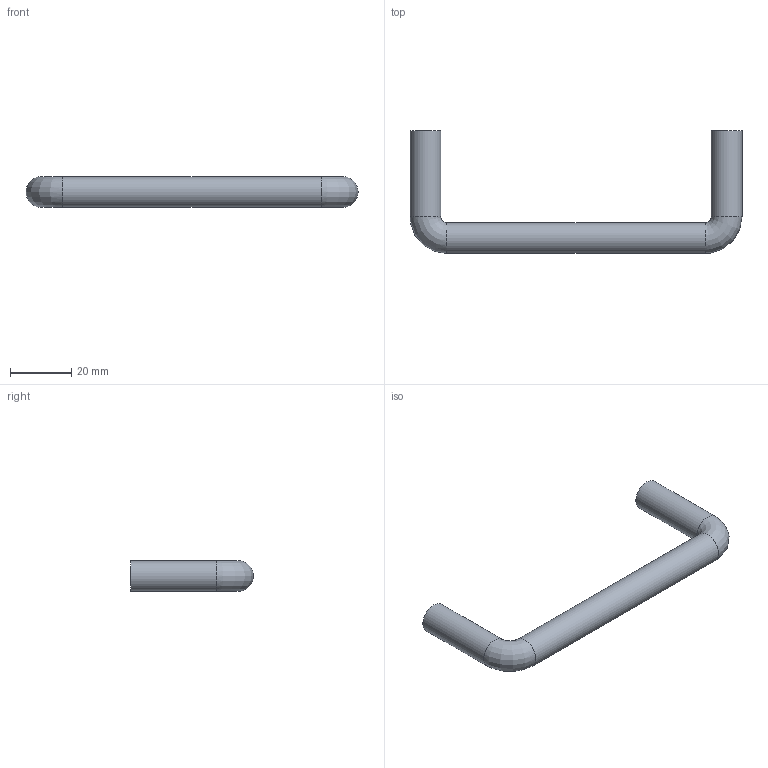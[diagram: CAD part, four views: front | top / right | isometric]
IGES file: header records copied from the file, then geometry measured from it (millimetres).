
Start section: Data from Parasolid IGES Translator 15.0.47, Copyright(c) 2006 Siemens P LM Software. All Rights Reserved.
Global section: file name: 9070102.igs; native system:  By UGS Corp.; preprocessor: XPlus GENERIC/IGES 3.0; author: Noname; organization: Noname; date: 20140122.155505; units: millimetre
Bounding box: 108 x 40 x 10 mm (x, y, z)
Surface area: 5497.5 mm2 (no closed solid volume)
Topology: 0 solids, 0 shells, 11 faces, 42 edges, 38 vertices
Faces by surface type: revolution 7, extrusion 4
